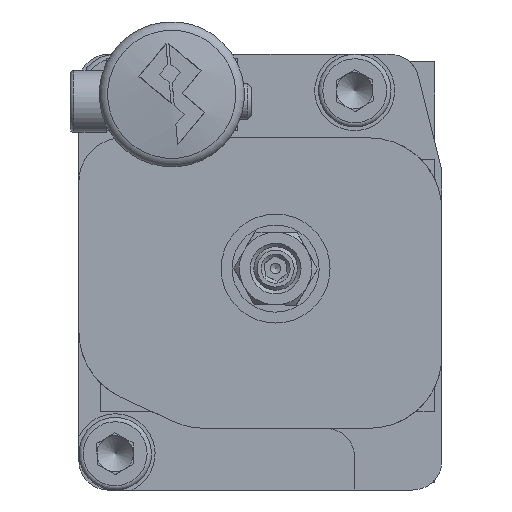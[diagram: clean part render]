
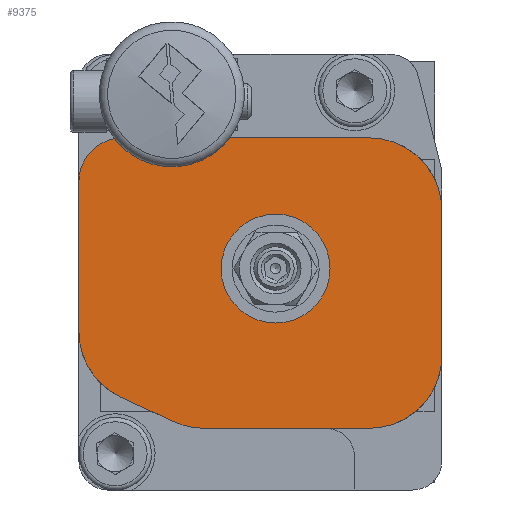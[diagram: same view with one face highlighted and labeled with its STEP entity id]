
A CAD part, left-side view. The second image highlights one B-rep face of the part: STEP entity #9375.
In plain terms, the highlighted planar face has unit normal (-1, 0, 0).
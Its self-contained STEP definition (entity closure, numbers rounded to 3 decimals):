
#49 = EDGE_CURVE ( 'NONE', #5931, #16560, #7250, .T. ) ;
#108 = AXIS2_PLACEMENT_3D ( 'NONE', #6030, #10562, #16529 ) ;
#602 = ORIENTED_EDGE ( 'NONE', *, *, #16938, .T. ) ;
#607 = EDGE_CURVE ( 'NONE', #14069, #10745, #642, .T. ) ;
#642 = LINE ( 'NONE', #2584, #10423 ) ;
#884 = CARTESIAN_POINT ( 'NONE',  ( 0., -34.6, 30.5 ) ) ;
#1100 = CIRCLE ( 'NONE', #10493, 10. ) ;
#1125 = DIRECTION ( 'NONE',  ( -1., 0., 0. ) ) ;
#1300 = EDGE_CURVE ( 'NONE', #18574, #6302, #3315, .T. ) ;
#1439 = DIRECTION ( 'NONE',  ( -1., 0., 0. ) ) ;
#1567 = CARTESIAN_POINT ( 'NONE',  ( 0., 0., 60. ) ) ;
#1574 = CARTESIAN_POINT ( 'NONE',  ( 0., -50., 38.5 ) ) ;
#2042 = DIRECTION ( 'NONE',  ( 0., 1., 0. ) ) ;
#2103 = CARTESIAN_POINT ( 'NONE',  ( 0., 0., 42.5 ) ) ;
#2431 = ORIENTED_EDGE ( 'NONE', *, *, #1300, .T. ) ;
#2584 = CARTESIAN_POINT ( 'NONE',  ( 0., -50., 60. ) ) ;
#2622 = PLANE ( 'NONE',  #13061 ) ;
#2652 = DIRECTION ( 'NONE',  ( 0., -1., 0. ) ) ;
#2751 = ORIENTED_EDGE ( 'NONE', *, *, #4722, .T. ) ;
#2854 = ORIENTED_EDGE ( 'NONE', *, *, #7894, .F. ) ;
#2977 = CARTESIAN_POINT ( 'NONE',  ( 0., -40., 38.5 ) ) ;
#3238 = CARTESIAN_POINT ( 'NONE',  ( 0., -5.774, 12.802 ) ) ;
#3315 = LINE ( 'NONE', #4884, #8568 ) ;
#3337 = DIRECTION ( 'NONE',  ( -1., 0., 0. ) ) ;
#3550 = CIRCLE ( 'NONE', #108, 10. ) ;
#3800 = EDGE_CURVE ( 'NONE', #8587, #18574, #3550, .T. ) ;
#4722 = EDGE_CURVE ( 'NONE', #6302, #5931, #18914, .T. ) ;
#4884 = CARTESIAN_POINT ( 'NONE',  ( 0., -15., 8.5 ) ) ;
#5092 = VERTEX_POINT ( 'NONE', #2103 ) ;
#5179 = CIRCLE ( 'NONE', #7071, 7.5 ) ;
#5412 = EDGE_LOOP ( 'NONE', ( #5414, #8408, #8691, #8403, #2431, #2751, #7850, #602, #15523, #7358 ) ) ;
#5414 = ORIENTED_EDGE ( 'NONE', *, *, #12887, .T. ) ;
#5560 = DIRECTION ( 'NONE',  ( 0., 1., 0. ) ) ;
#5736 = DIRECTION ( 'NONE',  ( 1., 0., 0. ) ) ;
#5931 = VERTEX_POINT ( 'NONE', #5934 ) ;
#5934 = CARTESIAN_POINT ( 'NONE',  ( 0., -17.217, 8.5 ) ) ;
#5943 = EDGE_CURVE ( 'NONE', #14198, #5092, #9242, .T. ) ;
#6030 = CARTESIAN_POINT ( 'NONE',  ( 0., -10., 21.865 ) ) ;
#6049 = DIRECTION ( 'NONE',  ( 0., 0., -1. ) ) ;
#6076 = CARTESIAN_POINT ( 'NONE',  ( 0., -27.1, 30.5 ) ) ;
#6155 = CARTESIAN_POINT ( 'NONE',  ( 0., -40., 8.5 ) ) ;
#6302 = VERTEX_POINT ( 'NONE', #7108 ) ;
#6755 = CARTESIAN_POINT ( 'NONE',  ( 0., -6., 48.5 ) ) ;
#7071 = AXIS2_PLACEMENT_3D ( 'NONE', #6076, #3337, #13526 ) ;
#7108 = CARTESIAN_POINT ( 'NONE',  ( 0., -12.991, 9.437 ) ) ;
#7250 = LINE ( 'NONE', #7350, #16027 ) ;
#7310 = DIRECTION ( 'NONE',  ( 0., 1., 0. ) ) ;
#7350 = CARTESIAN_POINT ( 'NONE',  ( 0., -15., 8.5 ) ) ;
#7358 = ORIENTED_EDGE ( 'NONE', *, *, #18025, .T. ) ;
#7576 = CARTESIAN_POINT ( 'NONE',  ( 0., 0., 21.865 ) ) ;
#7850 = ORIENTED_EDGE ( 'NONE', *, *, #49, .T. ) ;
#7894 = EDGE_CURVE ( 'NONE', #9791, #9791, #5179, .T. ) ;
#7912 = DIRECTION ( 'NONE',  ( -1., 0., 0. ) ) ;
#8064 = VECTOR ( 'NONE', #9899, 1000. ) ;
#8325 = EDGE_CURVE ( 'NONE', #5092, #8587, #16631, .T. ) ;
#8403 = ORIENTED_EDGE ( 'NONE', *, *, #3800, .T. ) ;
#8408 = ORIENTED_EDGE ( 'NONE', *, *, #5943, .T. ) ;
#8568 = VECTOR ( 'NONE', #13607, 1000. ) ;
#8587 = VERTEX_POINT ( 'NONE', #7576 ) ;
#8588 = CARTESIAN_POINT ( 'NONE',  ( 0., 0., 60. ) ) ;
#8691 = ORIENTED_EDGE ( 'NONE', *, *, #8325, .T. ) ;
#9242 = CIRCLE ( 'NONE', #15825, 6. ) ;
#9367 = DIRECTION ( 'NONE',  ( -1., 0., 0. ) ) ;
#9375 = ADVANCED_FACE ( 'NONE', ( #14763, #19006 ), #2622, .F. ) ;
#9555 = DIRECTION ( 'NONE',  ( 0., 1., 0. ) ) ;
#9791 = VERTEX_POINT ( 'NONE', #884 ) ;
#9899 = DIRECTION ( 'NONE',  ( 0., 1., 0. ) ) ;
#10423 = VECTOR ( 'NONE', #11044, 1000. ) ;
#10459 = AXIS2_PLACEMENT_3D ( 'NONE', #11625, #7912, #2042 ) ;
#10493 = AXIS2_PLACEMENT_3D ( 'NONE', #2977, #1125, #11818 ) ;
#10562 = DIRECTION ( 'NONE',  ( -1., 0., 0. ) ) ;
#10745 = VERTEX_POINT ( 'NONE', #15222 ) ;
#10947 = CARTESIAN_POINT ( 'NONE',  ( 0., -40., 18.5 ) ) ;
#11044 = DIRECTION ( 'NONE',  ( 0., 0., -1. ) ) ;
#11625 = CARTESIAN_POINT ( 'NONE',  ( 0., -17.217, 18.5 ) ) ;
#11818 = DIRECTION ( 'NONE',  ( 0., 1., 0. ) ) ;
#12887 = EDGE_CURVE ( 'NONE', #16462, #14198, #15967, .T. ) ;
#13061 = AXIS2_PLACEMENT_3D ( 'NONE', #8588, #5736, #5560 ) ;
#13526 = DIRECTION ( 'NONE',  ( 0., -1., 0. ) ) ;
#13607 = DIRECTION ( 'NONE',  ( 0., -0.906, -0.423 ) ) ;
#14069 = VERTEX_POINT ( 'NONE', #1574 ) ;
#14198 = VERTEX_POINT ( 'NONE', #6755 ) ;
#14254 = EDGE_LOOP ( 'NONE', ( #2854 ) ) ;
#14763 = FACE_BOUND ( 'NONE', #14254, .T. ) ;
#14959 = CARTESIAN_POINT ( 'NONE',  ( 0., -6., 42.5 ) ) ;
#15209 = VECTOR ( 'NONE', #6049, 1000. ) ;
#15222 = CARTESIAN_POINT ( 'NONE',  ( 0., -50., 18.5 ) ) ;
#15523 = ORIENTED_EDGE ( 'NONE', *, *, #607, .F. ) ;
#15825 = AXIS2_PLACEMENT_3D ( 'NONE', #14959, #1439, #7310 ) ;
#15967 = LINE ( 'NONE', #18926, #8064 ) ;
#16027 = VECTOR ( 'NONE', #2652, 1000. ) ;
#16095 = CIRCLE ( 'NONE', #18604, 10. ) ;
#16462 = VERTEX_POINT ( 'NONE', #17629 ) ;
#16529 = DIRECTION ( 'NONE',  ( 0., 1., 0. ) ) ;
#16560 = VERTEX_POINT ( 'NONE', #6155 ) ;
#16631 = LINE ( 'NONE', #1567, #15209 ) ;
#16938 = EDGE_CURVE ( 'NONE', #16560, #10745, #16095, .T. ) ;
#17629 = CARTESIAN_POINT ( 'NONE',  ( 0., -40., 48.5 ) ) ;
#18025 = EDGE_CURVE ( 'NONE', #14069, #16462, #1100, .T. ) ;
#18574 = VERTEX_POINT ( 'NONE', #3238 ) ;
#18604 = AXIS2_PLACEMENT_3D ( 'NONE', #10947, #9367, #9555 ) ;
#18914 = CIRCLE ( 'NONE', #10459, 10. ) ;
#18926 = CARTESIAN_POINT ( 'NONE',  ( 0., 0., 48.5 ) ) ;
#19006 = FACE_OUTER_BOUND ( 'NONE', #5412, .T. ) ;
